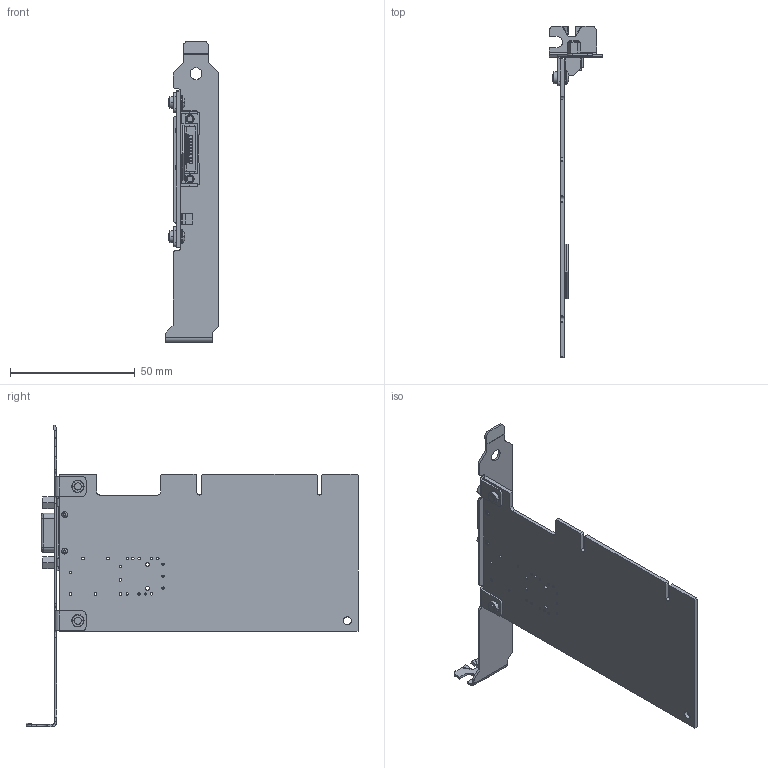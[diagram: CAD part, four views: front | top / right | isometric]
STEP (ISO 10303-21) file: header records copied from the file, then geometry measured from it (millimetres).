
FILE_DESCRIPTION((''),'2;1');
FILE_NAME('COPPER_SW0001','2011-07-25T',('gvillanu'),(''),'PRO/ENGINEER BY PARAMETRIC TECHNOLOGY CORPORATION, 2010230','PRO/ENGINEER BY PARAMETRIC TECHNOLOGY CORPORATION, 2010230','');
FILE_SCHEMA(('CONFIG_CONTROL_DESIGN'));
Products named in the file (1): COPPER_SW0001
Bounding box: 21.59 x 133.25 x 120.96 mm (x, y, z)
Volume: 15583.9 mm3; surface area: 23040.4 mm2
Topology: 2 solids, 5 shells, 2181 faces, 5966 edges, 3794 vertices
Faces by surface type: plane 1305, cylinder 646, bspline 102, extrusion 72, torus 32, cone 20, sphere 4
Entity records: 76389 total; most frequent: CARTESIAN_POINT 22015, ORIENTED_EDGE 11828, DIRECTION 10388, EDGE_CURVE 5914, VECTOR 4272, LINE 4200, VERTEX_POINT 3832, AXIS2_PLACEMENT_3D 3058
